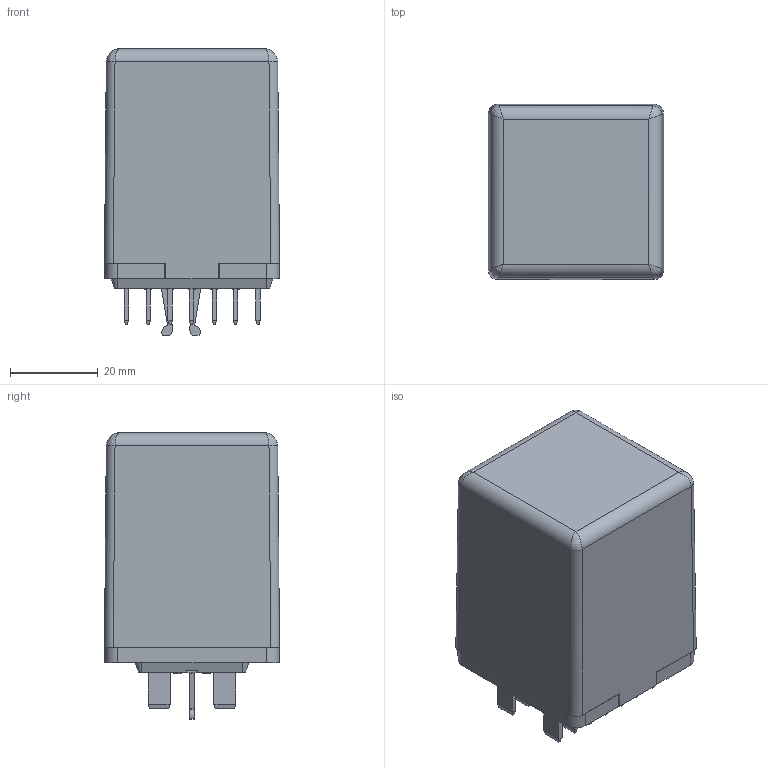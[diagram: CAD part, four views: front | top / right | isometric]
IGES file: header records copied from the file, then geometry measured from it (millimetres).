
Global section: file name: No Iges File Name specified; native system: Autodesk Inventor 2011; preprocessor: AutoDesk Inventor Iges Exporter R2011; author: oey; date: 20100916.141126; units: millimetre
Bounding box: 40 x 40.06 x 65.4 mm (x, y, z)
Volume: 25768.5 mm3; surface area: 24384.3 mm2
Topology: 1 solids, 1 shells, 608 faces, 1603 edges, 1036 vertices
Faces by surface type: plane 313, bspline 216, cylinder 44, revolution 29, cone 4, torus 2
